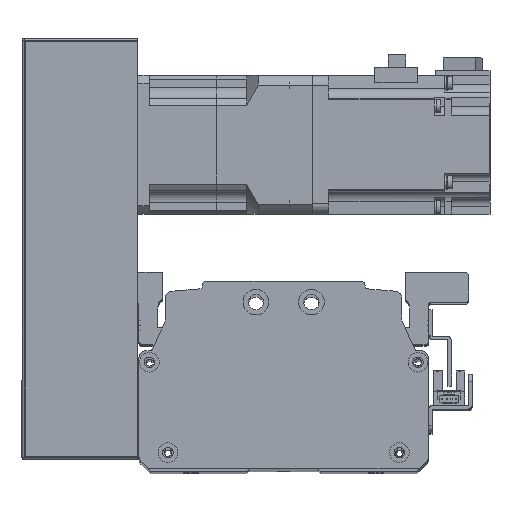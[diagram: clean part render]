
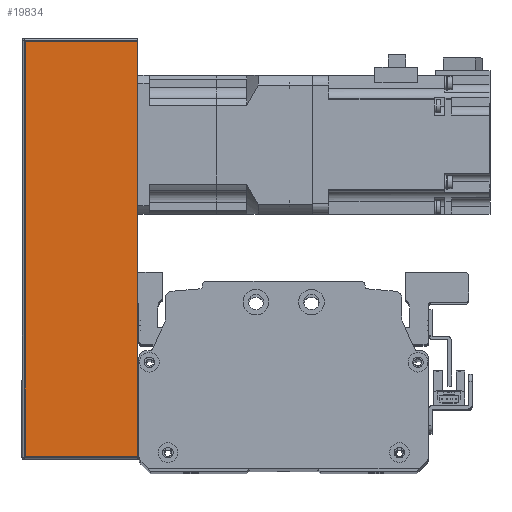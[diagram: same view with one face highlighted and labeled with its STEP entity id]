
A CAD part, top view. The second image highlights one B-rep face of the part: STEP entity #19834.
In plain terms, the highlighted planar face has unit normal (0, 0, 1) as drawn and (0, -1, 0) by its records, which use the part's own axes.
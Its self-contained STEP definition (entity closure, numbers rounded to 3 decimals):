
#604=PLANE('',#21790);
#1823=LINE('',#32720,#3447);
#1832=LINE('',#32759,#3456);
#1835=LINE('',#32769,#3459);
#1836=LINE('',#32771,#3460);
#3447=VECTOR('',#26450,10.);
#3456=VECTOR('',#26499,10.);
#3459=VECTOR('',#26516,10.);
#3460=VECTOR('',#26519,10.);
#5816=FACE_OUTER_BOUND('',#7260,.T.);
#7260=EDGE_LOOP('',(#17073,#17074,#17075,#17076));
#10131=VERTEX_POINT('',#32717);
#10132=VERTEX_POINT('',#32719);
#10141=VERTEX_POINT('',#32756);
#10142=VERTEX_POINT('',#32758);
#12575=EDGE_CURVE('',#10131,#10132,#1823,.T.);
#12595=EDGE_CURVE('',#10141,#10142,#1832,.T.);
#12601=EDGE_CURVE('',#10142,#10131,#1835,.T.);
#12602=EDGE_CURVE('',#10132,#10141,#1836,.T.);
#17073=ORIENTED_EDGE('',*,*,#12595,.F.);
#17074=ORIENTED_EDGE('',*,*,#12602,.F.);
#17075=ORIENTED_EDGE('',*,*,#12575,.F.);
#17076=ORIENTED_EDGE('',*,*,#12601,.F.);
#19834=ADVANCED_FACE('',(#5816),#604,.T.);
#21790=AXIS2_PLACEMENT_3D('',#32770,#26517,#26518);
#26450=DIRECTION('',(1.,0.,0.));
#26499=DIRECTION('',(-1.,0.,0.));
#26516=DIRECTION('',(0.,0.,1.));
#26517=DIRECTION('center_axis',(0.,-1.,0.));
#26518=DIRECTION('ref_axis',(1.,0.,0.));
#26519=DIRECTION('',(0.,0.,-1.));
#32717=CARTESIAN_POINT('',(-90.,-38.,25.));
#32719=CARTESIAN_POINT('',(90.,-38.,25.));
#32720=CARTESIAN_POINT('',(91.,-38.,25.));
#32756=CARTESIAN_POINT('',(90.,-38.,-24.));
#32758=CARTESIAN_POINT('',(-90.,-38.,-24.));
#32759=CARTESIAN_POINT('',(-45.5,-38.,-24.));
#32769=CARTESIAN_POINT('',(-90.,-38.,0.));
#32770=CARTESIAN_POINT('Origin',(-91.,-38.,0.));
#32771=CARTESIAN_POINT('',(90.,-38.,0.));
